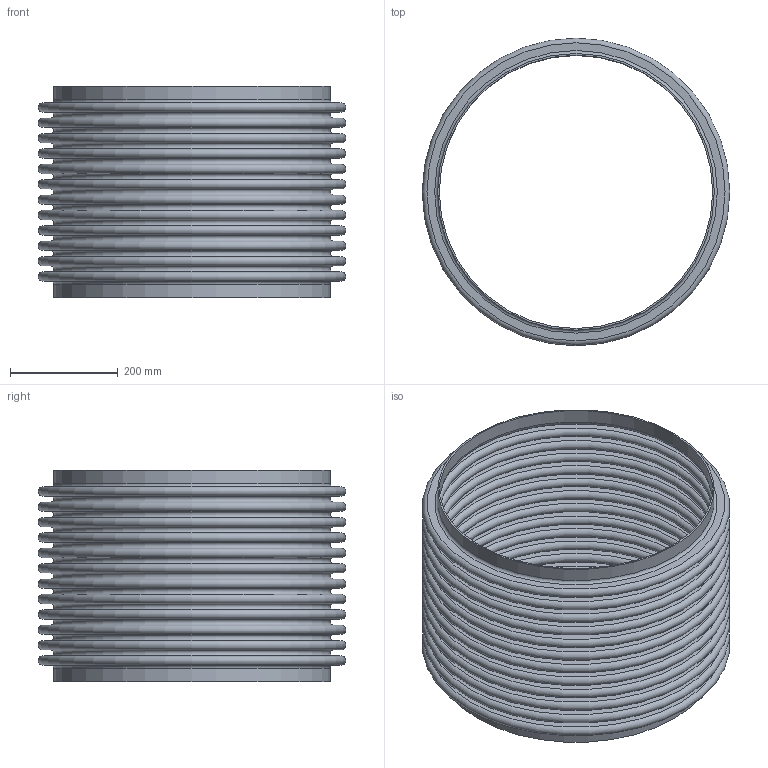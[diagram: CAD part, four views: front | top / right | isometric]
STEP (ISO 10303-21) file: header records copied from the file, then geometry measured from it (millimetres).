
FILE_DESCRIPTION(/* description */ ('STOCK BELLOWS: U.S-20-12-300L, 20.000 I.D., 22.500 O.D., 2 PLY, 16 GA (0.060 THICK), 12 CONS., 1.125 PITCH, 1.000 TANGENT. '),/* implementation_level */ '2;1');
FILE_NAME(/* name */ 'STOCK BELLOW - US-20-12-300L.stp',/* time_stamp */ '2026-07-21T13:31:44-05:00',/* author */ ('KennethB'),/* organization */ (''),/* preprocessor_version */ 'ST-DEVELOPER v20.1',/* originating_system */ 'Autodesk Inventor 2026',/* authorisation */ '');
FILE_SCHEMA (('AUTOMOTIVE_DESIGN { 1 0 10303 214 3 1 1 }'));
Length unit declared in the file: inch
Products named in the file (1): STOCK BELLOW - US-20-12-300L
Bounding box: 571.5 x 571.5 x 393.7 mm (x, y, z)
Volume: 4820440.8 mm3; surface area: 3192380.3 mm2
Topology: 3 solids, 3 shells, 108 faces, 162 edges, 109 vertices
Faces by surface type: plane 54, torus 50, cylinder 4
Full cylindrical faces by diameter (mm): 508 x2, 514.096 x2
Entity records: 2550 total; most frequent: DIRECTION 538, CARTESIAN_POINT 380, ORIENTED_EDGE 324, AXIS2_PLACEMENT_3D 267, EDGE_LOOP 162, EDGE_CURVE 162, CIRCLE 158, FACE_OUTER_BOUND 108
